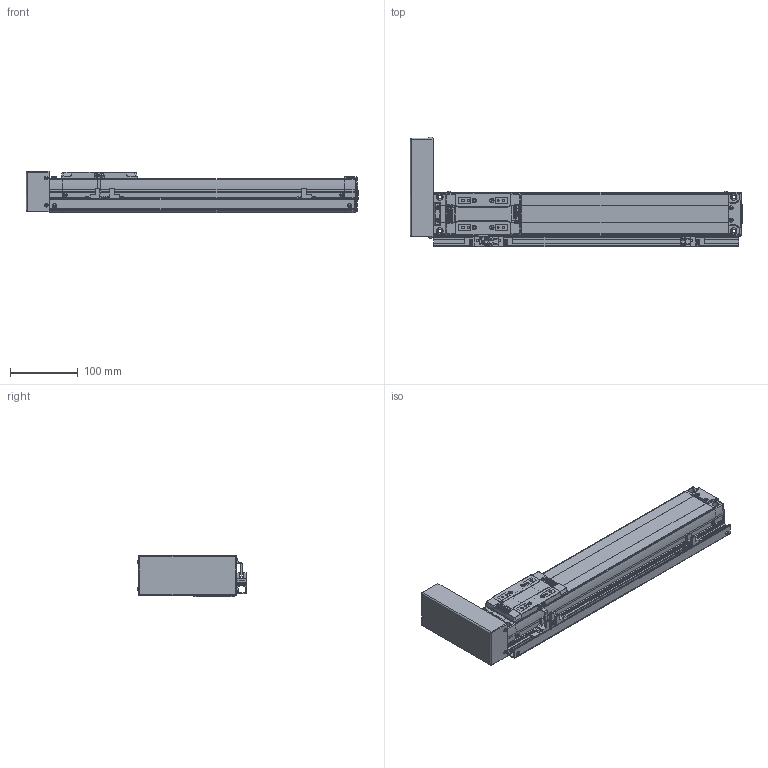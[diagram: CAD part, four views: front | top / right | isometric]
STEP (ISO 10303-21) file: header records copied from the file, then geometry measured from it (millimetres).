
FILE_DESCRIPTION(('STEP AP214'),'1');
FILE_NAME('Z:/Web/3D/SAN65/STP/SAN65ㅁㅁ-300PL+3SR.stp','2012-06-14T05:12:52',(' '),(' '),'Spatial InterOp 3D',' ',' ');
FILE_SCHEMA(('automotive_design'));
Length unit declared in the file: metre
Products named in the file (57): SAN65__-300; BODY-SAN65; REAR-SAN65; RRCV-SAN65; 스크루 : Round - M3.0 x 6.0; FRONT-SAN65; SHAFT-SAN65; RN8 x 0.75; SSFX-SAN65; SLIDE-SAN65; SLCV-SAN65; 스크루 : Countersunk - M3.0 x 6.0; ____203; PL; BTCV-SAN65; BHCS M3 X 6L; 3SR; SRL-16x17-450L; - OT; EE-SX674; SBK-SX674-352; HOME; + OT; DOG; SDG-SAN65; 스크루 : Round - M3.0 x 5.0
Assembly tree (56 placements, depth 4):
  ____203
    SAN65__-300
      BODY-SAN65
      REAR-SAN65
        REAR-SAN65
        RRCV-SAN65
        스크루 : Round - M3.0 x 6.0
        스크루 : Round - M3.0 x 6.0
        스크루 : Round - M3.0 x 6.0
        스크루 : Round - M3.0 x 6.0
        스크루 : Round - M3.0 x 6.0
        스크루 : Round - M3.0 x 6.0
      FRONT-SAN65
        FRONT-SAN65
        SHAFT-SAN65
        RN8 x 0.75
        SSFX-SAN65
        스크루 : Round - M3.0 x 6.0
        스크루 : Round - M3.0 x 6.0
        스크루 : Round - M3.0 x 6.0
        스크루 : Round - M3.0 x 6.0
      SLIDE-SAN65
        SLIDE-SAN65
        SLCV-SAN65
        스크루 : Countersunk - M3.0 x 6.0
        스크루 : Countersunk - M3.0 x 6.0
        스크루 : Countersunk - M3.0 x 6.0
        스크루 : Countersunk - M3.0 x 6.0
    PL
      BTCV-SAN65
      BHCS M3 X 6L
      BHCS M3 X 6L
      BHCS M3 X 6L
      BHCS M3 X 6L
    3SR
      SRL-16x17-450L
      스크루 : Round - M3.0 x 6.0
      스크루 : Round - M3.0 x 6.0
      - OT
        EE-SX674
        SBK-SX674-352
        스크루 : Round - M3.0 x 6.0
        스크루 : Round - M3.0 x 6.0
      HOME
        EE-SX674
        SBK-SX674-352
        스크루 : Round - M3.0 x 6.0
        스크루 : Round - M3.0 x 6.0
      + OT
        EE-SX674
        SBK-SX674-352
        스크루 : Round - M3.0 x 6.0
        스크루 : Round - M3.0 x 6.0
      DOG
        SDG-SAN65
        스크루 : Round - M3.0 x 5.0
        스크루 : Round - M3.0 x 5.0
Bounding box: 490.15 x 162.06 x 61 mm (x, y, z)
Volume: 1799536.4 mm3; surface area: 278335.1 mm2
Topology: 46 solids, 46 shells, 1949 faces, 4971 edges, 3240 vertices
Faces by surface type: plane 1293, cylinder 481, cone 91, sphere 36, bspline 30, torus 15, extrusion 3
Full cylindrical faces by diameter (mm): 0.571 x2, 0.706 x1, 1.727 x2, 2.132 x1, 2.2 x4, 2.5 x15, 2.528 x4, 3 x6, 3.121 x2, 3.3 x4, 3.4 x8, 3.5 x14, 4.2 x26, 4.849 x4, 5 x2, 5.5 x4, 5.987 x2, 6 x6, 6.35 x1, 6.5 x2, 7 x1, 8 x4, 9.5 x4, 13 x1, 15 x1, 19 x1, 26 x1, 38.1 x1
Entity records: 78637 total; most frequent: CARTESIAN_POINT 14997, DIRECTION 9769, ORIENTED_EDGE 9288, EDGE_CURVE 4644, VECTOR 3281, LINE 3278, AXIS2_PLACEMENT_3D 3244, VERTEX_POINT 3180
